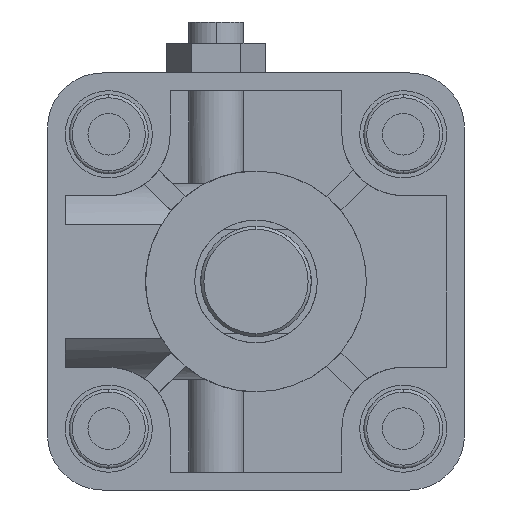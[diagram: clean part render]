
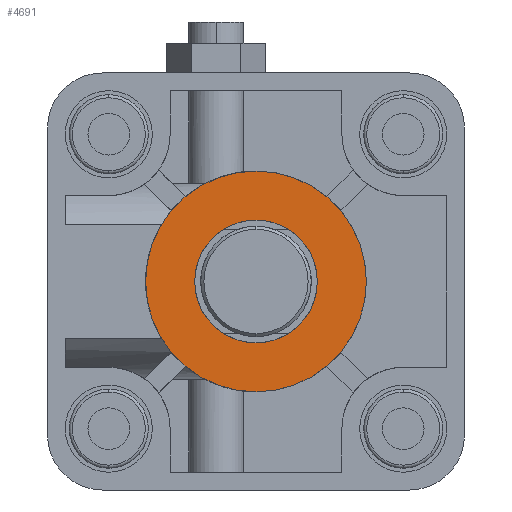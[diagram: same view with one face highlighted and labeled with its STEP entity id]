
A CAD part, left-side view. The second image highlights one B-rep face of the part: STEP entity #4691.
In plain terms, the highlighted planar face has unit normal (-1, 0, 0) as drawn and (1, 0, 0) by its records, which use the part's own axes.
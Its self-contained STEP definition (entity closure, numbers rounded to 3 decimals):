
#61 = CARTESIAN_POINT ( 'NONE',  ( 26., 0., 0. ) ) ;
#436 = AXIS2_PLACEMENT_3D ( 'NONE', #938, #6994, #9285 ) ;
#591 = EDGE_LOOP ( 'NONE', ( #3721, #1899 ) ) ;
#938 = CARTESIAN_POINT ( 'NONE',  ( 26., 0., 0. ) ) ;
#1149 = VERTEX_POINT ( 'NONE', #7499 ) ;
#1899 = ORIENTED_EDGE ( 'NONE', *, *, #8190, .F. ) ;
#1956 = CARTESIAN_POINT ( 'NONE',  ( 26., 0., -18. ) ) ;
#1959 = DIRECTION ( 'NONE',  ( 0., 0., 1. ) ) ;
#2007 = DIRECTION ( 'NONE',  ( -1., 0., 0. ) ) ;
#3303 = AXIS2_PLACEMENT_3D ( 'NONE', #61, #2007, #5398 ) ;
#3450 = ORIENTED_EDGE ( 'NONE', *, *, #4997, .T. ) ;
#3528 = AXIS2_PLACEMENT_3D ( 'NONE', #8694, #5788, #1959 ) ;
#3721 = ORIENTED_EDGE ( 'NONE', *, *, #7373, .F. ) ;
#3794 = FACE_OUTER_BOUND ( 'NONE', #591, .T. ) ;
#4355 = VERTEX_POINT ( 'NONE', #5918 ) ;
#4463 = CARTESIAN_POINT ( 'NONE',  ( 26., 0., -10. ) ) ;
#4485 = EDGE_CURVE ( 'NONE', #4355, #8692, #5758, .T. ) ;
#4493 = VERTEX_POINT ( 'NONE', #1956 ) ;
#4691 = ADVANCED_FACE ( 'NONE', ( #3794, #8690 ), #7745, .F. ) ;
#4997 = EDGE_CURVE ( 'NONE', #8692, #4355, #6107, .T. ) ;
#5398 = DIRECTION ( 'NONE',  ( 0., 0., 1. ) ) ;
#5758 = CIRCLE ( 'NONE', #436, 10. ) ;
#5788 = DIRECTION ( 'NONE',  ( -1., 0., 0. ) ) ;
#5818 = DIRECTION ( 'NONE',  ( -1., 0., 0. ) ) ;
#5918 = CARTESIAN_POINT ( 'NONE',  ( 26., 0., 10. ) ) ;
#6107 = CIRCLE ( 'NONE', #9373, 10. ) ;
#6132 = CARTESIAN_POINT ( 'NONE',  ( 26., 0., 0. ) ) ;
#6256 = AXIS2_PLACEMENT_3D ( 'NONE', #6132, #5818, #7933 ) ;
#6392 = ORIENTED_EDGE ( 'NONE', *, *, #4485, .T. ) ;
#6539 = EDGE_LOOP ( 'NONE', ( #6392, #3450 ) ) ;
#6994 = DIRECTION ( 'NONE',  ( -1., 0., 0. ) ) ;
#7040 = DIRECTION ( 'NONE',  ( 0., 0., 1. ) ) ;
#7246 = CIRCLE ( 'NONE', #6256, 18. ) ;
#7373 = EDGE_CURVE ( 'NONE', #1149, #4493, #8813, .T. ) ;
#7499 = CARTESIAN_POINT ( 'NONE',  ( 26., 0., 18. ) ) ;
#7745 = PLANE ( 'NONE',  #3528 ) ;
#7933 = DIRECTION ( 'NONE',  ( 0., 0., 1. ) ) ;
#8190 = EDGE_CURVE ( 'NONE', #4493, #1149, #7246, .T. ) ;
#8434 = DIRECTION ( 'NONE',  ( -1., 0., 0. ) ) ;
#8690 = FACE_BOUND ( 'NONE', #6539, .T. ) ;
#8692 = VERTEX_POINT ( 'NONE', #4463 ) ;
#8694 = CARTESIAN_POINT ( 'NONE',  ( 26., 10., 0. ) ) ;
#8813 = CIRCLE ( 'NONE', #3303, 18. ) ;
#9182 = CARTESIAN_POINT ( 'NONE',  ( 26., 0., 0. ) ) ;
#9285 = DIRECTION ( 'NONE',  ( 0., 0., 1. ) ) ;
#9373 = AXIS2_PLACEMENT_3D ( 'NONE', #9182, #8434, #7040 ) ;
